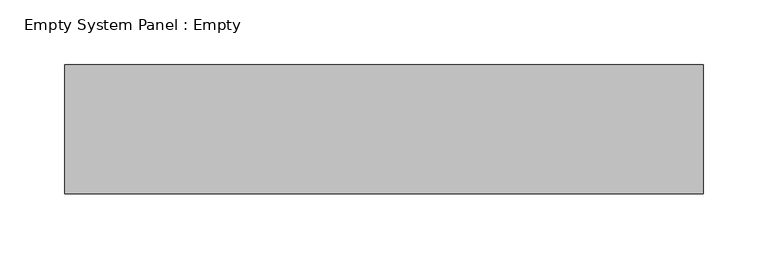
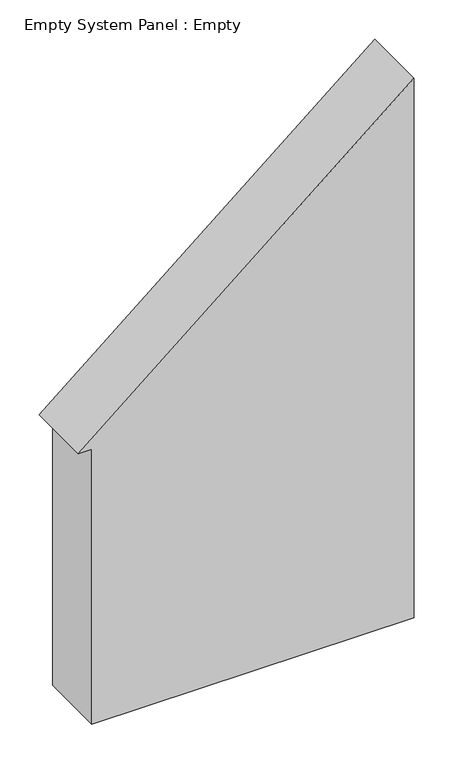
"""IFC4 building model written with IfcOpenShell, lengths in millimetres: plate geometry, Empty System Panel : Empty."""

from ifc_helpers import new_model, si_unit, frame, origin, place, context, project, spatial, polyline, outline, extrude, source, transform, mapped, element, save


def empty_system_panel_empty_dfb7e89f(model_context):
    return source(origin(), model_context, "Body", "SweptSolid", [
        extrude(outline(polyline([(0.0, -227.2855469), (0.0, 247.2855469), (839.9083938, 247.2855469), (428.2771906, -247.2855469), (428.2771906, -227.2855469), (0.0, -227.2855469)])), frame((0.0, -50.0, 0.0), z_axis=(0.0, 1.0, 0.0), x_axis=(0.0, 0.0, 1.0)), (0.0, 0.0, 1.0), 100.0),
    ])


if __name__ == "__main__":
    model = new_model("IFC4")
    model_context = context("Model", 3, world=origin())
    ifc_project = project(units=[si_unit("LENGTHUNIT", "METRE", prefix="MILLI")], contexts=[model_context])
    site = spatial("IfcSite", under=ifc_project)
    building = spatial("IfcBuilding", under=site)
    placement = place(None, origin())
    empty_system_panel_empty_shape = empty_system_panel_empty_dfb7e89f(model_context)
    element("IfcPlate", 1, ObjectType="Empty System Panel : Empty", at=placement, inside=building, context=model_context, shape_type="MappedRepresentation", body=[
        mapped(empty_system_panel_empty_shape, transform((0.0, 0.0, 0.0), x_axis=(1.0, 0.0, 0.0), y_axis=(0.0, 1.0, 0.0), z_axis=(0.0, 0.0, 1.0))),
    ])
    save(model, "model.ifc")
